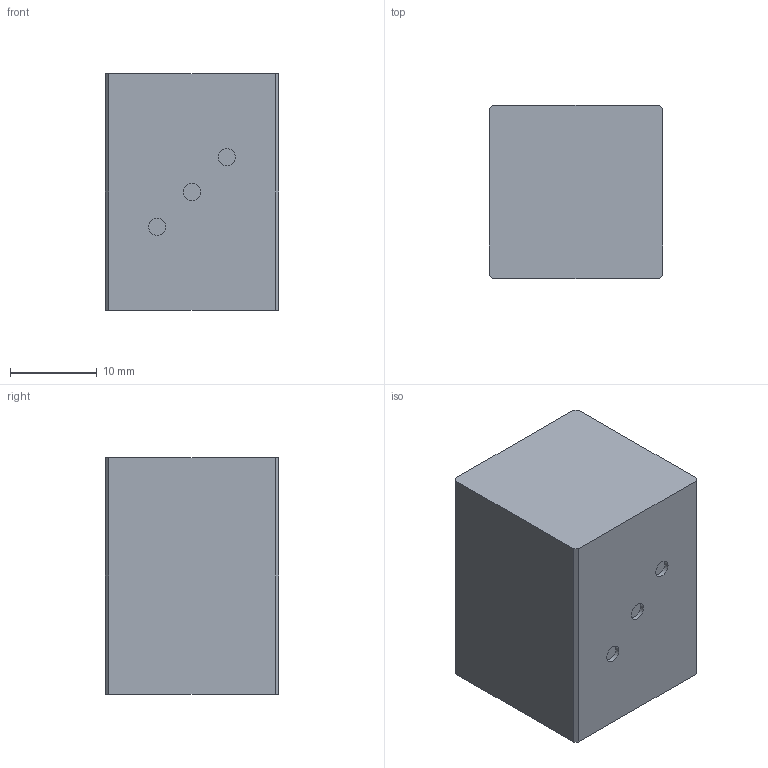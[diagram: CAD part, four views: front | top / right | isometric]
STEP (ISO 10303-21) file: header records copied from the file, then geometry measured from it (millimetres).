
FILE_DESCRIPTION(('Open CASCADE Model'),'2;1');
FILE_NAME('Open CASCADE Shape Model','2026-08-23T08:04:37',('Author'),( 'Open CASCADE'),'Open CASCADE STEP processor 7.9','Open CASCADE 7.9' ,'Unknown');
FILE_SCHEMA(('AUTOMOTIVE_DESIGN { 1 0 10303 214 1 1 1 1 }'));
Length unit declared in the file: millimetre
Products named in the file (2): =>[0:1:1:2]; COMPOUND
Assembly tree (1 placements, depth 2):
  =>[0:1:1:2]
    COMPOUND
Bounding box: 20 x 20 x 27.25 mm (x, y, z)
Volume: 10886.6 mm3; surface area: 2963.2 mm2
Topology: 1 solids, 1 shells, 16 faces, 33 edges, 22 vertices
Faces by surface type: plane 13, cylinder 3
Full cylindrical faces by diameter (mm): 2 x3
Entity records: 905 total; most frequent: CARTESIAN_POINT 157, DIRECTION 138, LINE 87, VECTOR 87, ORIENTED_EDGE 66, PCURVE 66, DEFINITIONAL_REPRESENTATION 66, EDGE_CURVE 33
